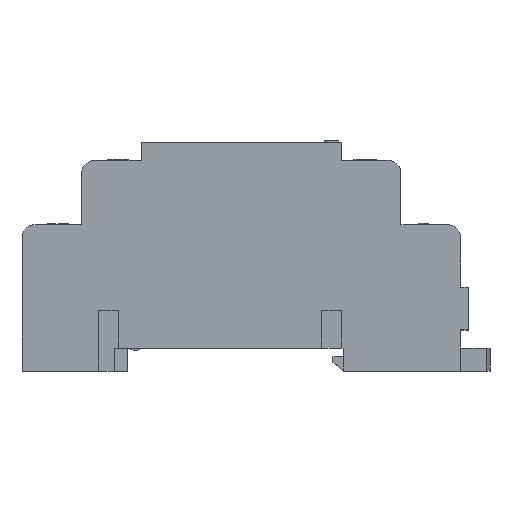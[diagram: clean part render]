
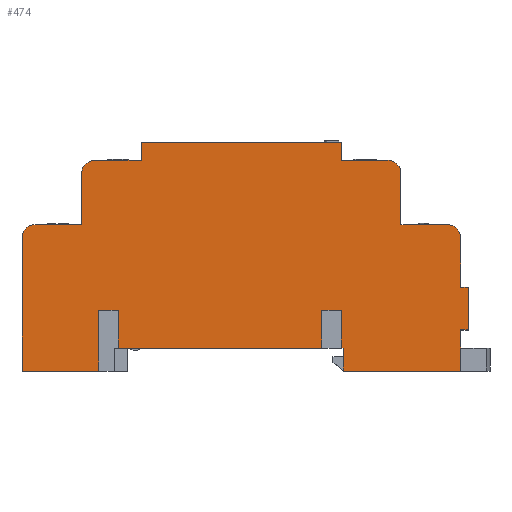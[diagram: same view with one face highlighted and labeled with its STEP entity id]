
A CAD part, top view. The second image highlights one B-rep face of the part: STEP entity #474.
In plain terms, the highlighted planar face has unit normal (0, 0, 1).
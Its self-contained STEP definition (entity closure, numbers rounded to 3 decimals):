
#436=CIRCLE('',#6788,2.);
#437=CIRCLE('',#6789,2.);
#438=CIRCLE('',#6790,2.);
#439=CIRCLE('',#6791,2.);
#474=ADVANCED_FACE('',(#1074),#826,.T.);
#826=PLANE('',#6792);
#1074=FACE_OUTER_BOUND('',#1403,.T.);
#1403=EDGE_LOOP('',(#1839,#1840,#1841,#1842,#1843,#1844,#1845,#1846,#1847,
#1848,#1849,#1850,#1851,#1852,#1853,#1854,#1855,#1856,#1857,#1858,#1859,
#1860,#1861,#1862,#1863,#1864,#1865,#1866,#1867,#1868,#1869));
#1839=ORIENTED_EDGE('',*,*,#4343,.F.);
#1840=ORIENTED_EDGE('',*,*,#4382,.T.);
#1841=ORIENTED_EDGE('',*,*,#4383,.T.);
#1842=ORIENTED_EDGE('',*,*,#4384,.T.);
#1843=ORIENTED_EDGE('',*,*,#4385,.F.);
#1844=ORIENTED_EDGE('',*,*,#4386,.T.);
#1845=ORIENTED_EDGE('',*,*,#4387,.T.);
#1846=ORIENTED_EDGE('',*,*,#4388,.F.);
#1847=ORIENTED_EDGE('',*,*,#4389,.T.);
#1848=ORIENTED_EDGE('',*,*,#4390,.F.);
#1849=ORIENTED_EDGE('',*,*,#4354,.F.);
#1850=ORIENTED_EDGE('',*,*,#4391,.F.);
#1851=ORIENTED_EDGE('',*,*,#4392,.F.);
#1852=ORIENTED_EDGE('',*,*,#4393,.F.);
#1853=ORIENTED_EDGE('',*,*,#4394,.F.);
#1854=ORIENTED_EDGE('',*,*,#4395,.F.);
#1855=ORIENTED_EDGE('',*,*,#4396,.F.);
#1856=ORIENTED_EDGE('',*,*,#4397,.F.);
#1857=ORIENTED_EDGE('',*,*,#4398,.F.);
#1858=ORIENTED_EDGE('',*,*,#4399,.F.);
#1859=ORIENTED_EDGE('',*,*,#4400,.F.);
#1860=ORIENTED_EDGE('',*,*,#4401,.F.);
#1861=ORIENTED_EDGE('',*,*,#4402,.F.);
#1862=ORIENTED_EDGE('',*,*,#4403,.F.);
#1863=ORIENTED_EDGE('',*,*,#4404,.F.);
#1864=ORIENTED_EDGE('',*,*,#4405,.F.);
#1865=ORIENTED_EDGE('',*,*,#4406,.T.);
#1866=ORIENTED_EDGE('',*,*,#4339,.F.);
#1867=ORIENTED_EDGE('',*,*,#4407,.T.);
#1868=ORIENTED_EDGE('',*,*,#4408,.T.);
#1869=ORIENTED_EDGE('',*,*,#4409,.T.);
#3701=VERTEX_POINT('',#8452);
#3702=VERTEX_POINT('',#8453);
#3705=VERTEX_POINT('',#8461);
#3706=VERTEX_POINT('',#8462);
#3710=VERTEX_POINT('',#8471);
#3716=VERTEX_POINT('',#8483);
#3741=VERTEX_POINT('',#8539);
#3742=VERTEX_POINT('',#8541);
#3743=VERTEX_POINT('',#8543);
#3744=VERTEX_POINT('',#8545);
#3745=VERTEX_POINT('',#8547);
#3746=VERTEX_POINT('',#8549);
#3747=VERTEX_POINT('',#8551);
#3748=VERTEX_POINT('',#8553);
#3749=VERTEX_POINT('',#8556);
#3750=VERTEX_POINT('',#8558);
#3751=VERTEX_POINT('',#8560);
#3752=VERTEX_POINT('',#8562);
#3753=VERTEX_POINT('',#8564);
#3754=VERTEX_POINT('',#8566);
#3755=VERTEX_POINT('',#8568);
#3756=VERTEX_POINT('',#8570);
#3757=VERTEX_POINT('',#8572);
#3758=VERTEX_POINT('',#8574);
#3759=VERTEX_POINT('',#8576);
#3760=VERTEX_POINT('',#8578);
#3761=VERTEX_POINT('',#8580);
#3762=VERTEX_POINT('',#8582);
#3763=VERTEX_POINT('',#8584);
#3764=VERTEX_POINT('',#8587);
#3765=VERTEX_POINT('',#8589);
#4339=EDGE_CURVE('',#3701,#3702,#5293,.T.);
#4343=EDGE_CURVE('',#3705,#3706,#5297,.T.);
#4354=EDGE_CURVE('',#3716,#3710,#5308,.T.);
#4382=EDGE_CURVE('',#3705,#3741,#5332,.T.);
#4383=EDGE_CURVE('',#3741,#3742,#5333,.T.);
#4384=EDGE_CURVE('',#3742,#3743,#5334,.T.);
#4385=EDGE_CURVE('',#3744,#3743,#5335,.T.);
#4386=EDGE_CURVE('',#3744,#3745,#5336,.T.);
#4387=EDGE_CURVE('',#3745,#3746,#5337,.T.);
#4388=EDGE_CURVE('',#3747,#3746,#5338,.T.);
#4389=EDGE_CURVE('',#3747,#3748,#5339,.T.);
#4390=EDGE_CURVE('',#3710,#3748,#5340,.T.);
#4391=EDGE_CURVE('',#3749,#3716,#436,.T.);
#4392=EDGE_CURVE('',#3750,#3749,#5341,.T.);
#4393=EDGE_CURVE('',#3751,#3750,#5342,.T.);
#4394=EDGE_CURVE('',#3752,#3751,#437,.T.);
#4395=EDGE_CURVE('',#3753,#3752,#5343,.T.);
#4396=EDGE_CURVE('',#3754,#3753,#5344,.T.);
#4397=EDGE_CURVE('',#3755,#3754,#5345,.T.);
#4398=EDGE_CURVE('',#3756,#3755,#5346,.T.);
#4399=EDGE_CURVE('',#3757,#3756,#5347,.T.);
#4400=EDGE_CURVE('',#3758,#3757,#438,.T.);
#4401=EDGE_CURVE('',#3759,#3758,#5348,.T.);
#4402=EDGE_CURVE('',#3760,#3759,#5349,.T.);
#4403=EDGE_CURVE('',#3761,#3760,#439,.T.);
#4404=EDGE_CURVE('',#3762,#3761,#5350,.T.);
#4405=EDGE_CURVE('',#3763,#3762,#5351,.T.);
#4406=EDGE_CURVE('',#3763,#3702,#5352,.T.);
#4407=EDGE_CURVE('',#3701,#3764,#5353,.T.);
#4408=EDGE_CURVE('',#3764,#3765,#5354,.T.);
#4409=EDGE_CURVE('',#3765,#3706,#5355,.T.);
#5293=LINE('',#8451,#6039);
#5297=LINE('',#8460,#6043);
#5308=LINE('',#8484,#6054);
#5332=LINE('',#8538,#6078);
#5333=LINE('',#8540,#6079);
#5334=LINE('',#8542,#6080);
#5335=LINE('',#8544,#6081);
#5336=LINE('',#8546,#6082);
#5337=LINE('',#8548,#6083);
#5338=LINE('',#8550,#6084);
#5339=LINE('',#8552,#6085);
#5340=LINE('',#8554,#6086);
#5341=LINE('',#8557,#6087);
#5342=LINE('',#8559,#6088);
#5343=LINE('',#8563,#6089);
#5344=LINE('',#8565,#6090);
#5345=LINE('',#8567,#6091);
#5346=LINE('',#8569,#6092);
#5347=LINE('',#8571,#6093);
#5348=LINE('',#8575,#6094);
#5349=LINE('',#8577,#6095);
#5350=LINE('',#8581,#6096);
#5351=LINE('',#8583,#6097);
#5352=LINE('',#8585,#6098);
#5353=LINE('',#8586,#6099);
#5354=LINE('',#8588,#6100);
#5355=LINE('',#8590,#6101);
#6039=VECTOR('',#7094,1.);
#6043=VECTOR('',#7100,1.);
#6054=VECTOR('',#7113,1.);
#6078=VECTOR('',#7149,1.);
#6079=VECTOR('',#7150,1.);
#6080=VECTOR('',#7151,1.);
#6081=VECTOR('',#7152,1.);
#6082=VECTOR('',#7153,1.);
#6083=VECTOR('',#7154,1.);
#6084=VECTOR('',#7155,1.);
#6085=VECTOR('',#7156,1.);
#6086=VECTOR('',#7157,1.);
#6087=VECTOR('',#7160,1.);
#6088=VECTOR('',#7161,1.);
#6089=VECTOR('',#7164,1.);
#6090=VECTOR('',#7165,1.);
#6091=VECTOR('',#7166,1.);
#6092=VECTOR('',#7167,1.);
#6093=VECTOR('',#7168,1.);
#6094=VECTOR('',#7171,1.);
#6095=VECTOR('',#7172,1.);
#6096=VECTOR('',#7175,1.);
#6097=VECTOR('',#7176,1.);
#6098=VECTOR('',#7177,1.);
#6099=VECTOR('',#7178,1.);
#6100=VECTOR('',#7179,1.);
#6101=VECTOR('',#7180,1.);
#6788=AXIS2_PLACEMENT_3D('',#8555,#7158,#7159);
#6789=AXIS2_PLACEMENT_3D('',#8561,#7162,#7163);
#6790=AXIS2_PLACEMENT_3D('',#8573,#7169,#7170);
#6791=AXIS2_PLACEMENT_3D('',#8579,#7173,#7174);
#6792=AXIS2_PLACEMENT_3D('',#8591,#7181,#7182);
#7094=DIRECTION('',(-1.,0.,0.));
#7100=DIRECTION('',(-1.,0.,0.));
#7113=DIRECTION('',(0.,-1.,0.));
#7149=DIRECTION('',(0.,-1.,0.));
#7150=DIRECTION('',(1.,0.,0.));
#7151=DIRECTION('',(0.,-1.,0.));
#7152=DIRECTION('',(-1.,0.,0.));
#7153=DIRECTION('',(0.,1.,0.));
#7154=DIRECTION('',(1.,0.,0.));
#7155=DIRECTION('',(-1.,0.,0.));
#7156=DIRECTION('',(0.,1.,0.));
#7157=DIRECTION('',(1.,0.,0.));
#7158=DIRECTION('',(0.,0.,-1.));
#7159=DIRECTION('',(0.707,0.707,0.));
#7160=DIRECTION('',(1.,0.,0.));
#7161=DIRECTION('',(0.,-1.,0.));
#7162=DIRECTION('',(0.,0.,-1.));
#7163=DIRECTION('',(0.707,0.707,0.));
#7164=DIRECTION('',(1.,0.,0.));
#7165=DIRECTION('',(0.,-1.,0.));
#7166=DIRECTION('',(1.,0.,0.));
#7167=DIRECTION('',(0.,1.,0.));
#7168=DIRECTION('',(1.,0.,0.));
#7169=DIRECTION('',(0.,0.,-1.));
#7170=DIRECTION('',(-0.707,0.707,0.));
#7171=DIRECTION('',(0.,1.,0.));
#7172=DIRECTION('',(1.,0.,0.));
#7173=DIRECTION('',(0.,0.,-1.));
#7174=DIRECTION('',(-0.707,0.707,0.));
#7175=DIRECTION('',(0.,1.,0.));
#7176=DIRECTION('',(-1.,0.,0.));
#7177=DIRECTION('',(0.,1.,0.));
#7178=DIRECTION('',(0.,-1.,0.));
#7179=DIRECTION('',(1.,0.,0.));
#7180=DIRECTION('',(0.,1.,0.));
#7181=DIRECTION('',(0.,0.,1.));
#7182=DIRECTION('',(-1.,0.,0.));
#8451=CARTESIAN_POINT('',(33.5,-8.2,10.));
#8452=CARTESIAN_POINT('',(-18.8,-8.2,10.));
#8453=CARTESIAN_POINT('',(-21.8,-8.2,10.));
#8460=CARTESIAN_POINT('',(33.5,-8.2,10.));
#8461=CARTESIAN_POINT('',(15.3,-8.2,10.));
#8462=CARTESIAN_POINT('',(12.3,-8.2,10.));
#8471=CARTESIAN_POINT('',(33.5,-4.7,10.));
#8483=CARTESIAN_POINT('',(33.5,2.9,10.));
#8484=CARTESIAN_POINT('',(33.5,2.9,10.));
#8538=CARTESIAN_POINT('',(15.3,-8.2,10.));
#8539=CARTESIAN_POINT('',(15.3,-14.,10.));
#8540=CARTESIAN_POINT('',(15.3,-14.,10.));
#8541=CARTESIAN_POINT('',(15.6,-14.,10.));
#8542=CARTESIAN_POINT('',(15.6,-14.,10.));
#8543=CARTESIAN_POINT('',(15.6,-17.5,10.));
#8544=CARTESIAN_POINT('',(33.5,-17.5,10.));
#8545=CARTESIAN_POINT('',(33.5,-17.5,10.));
#8546=CARTESIAN_POINT('',(33.5,-17.5,10.));
#8547=CARTESIAN_POINT('',(33.5,-11.2,10.));
#8548=CARTESIAN_POINT('',(37.2,-11.2,10.));
#8549=CARTESIAN_POINT('',(34.,-11.2,10.));
#8550=CARTESIAN_POINT('',(33.5,-11.2,10.));
#8551=CARTESIAN_POINT('',(34.7,-11.2,10.));
#8552=CARTESIAN_POINT('',(34.7,-17.8,10.));
#8553=CARTESIAN_POINT('',(34.7,-4.7,10.));
#8554=CARTESIAN_POINT('',(33.5,-4.7,10.));
#8555=CARTESIAN_POINT('',(31.5,2.9,10.));
#8556=CARTESIAN_POINT('',(31.5,4.9,10.));
#8557=CARTESIAN_POINT('',(24.4,4.9,10.));
#8558=CARTESIAN_POINT('',(24.4,4.9,10.));
#8559=CARTESIAN_POINT('',(24.4,12.7,10.));
#8560=CARTESIAN_POINT('',(24.4,12.7,10.));
#8561=CARTESIAN_POINT('',(22.4,12.7,10.));
#8562=CARTESIAN_POINT('',(22.4,14.7,10.));
#8563=CARTESIAN_POINT('',(15.3,14.7,10.));
#8564=CARTESIAN_POINT('',(15.3,14.7,10.));
#8565=CARTESIAN_POINT('',(15.3,17.5,10.));
#8566=CARTESIAN_POINT('',(15.3,17.5,10.));
#8567=CARTESIAN_POINT('',(-15.3,17.5,10.));
#8568=CARTESIAN_POINT('',(-15.3,17.5,10.));
#8569=CARTESIAN_POINT('',(-15.3,14.7,10.));
#8570=CARTESIAN_POINT('',(-15.3,14.7,10.));
#8571=CARTESIAN_POINT('',(-22.4,14.7,10.));
#8572=CARTESIAN_POINT('',(-22.4,14.7,10.));
#8573=CARTESIAN_POINT('',(-22.4,12.7,10.));
#8574=CARTESIAN_POINT('',(-24.4,12.7,10.));
#8575=CARTESIAN_POINT('',(-24.4,4.9,10.));
#8576=CARTESIAN_POINT('',(-24.4,4.9,10.));
#8577=CARTESIAN_POINT('',(-31.5,4.9,10.));
#8578=CARTESIAN_POINT('',(-31.5,4.9,10.));
#8579=CARTESIAN_POINT('',(-31.5,2.9,10.));
#8580=CARTESIAN_POINT('',(-33.5,2.9,10.));
#8581=CARTESIAN_POINT('',(-33.5,-8.2,10.));
#8582=CARTESIAN_POINT('',(-33.5,-17.5,10.));
#8583=CARTESIAN_POINT('',(-21.8,-17.5,10.));
#8584=CARTESIAN_POINT('',(-21.8,-17.5,10.));
#8585=CARTESIAN_POINT('',(-21.8,-17.5,10.));
#8586=CARTESIAN_POINT('',(-18.8,-8.2,10.));
#8587=CARTESIAN_POINT('',(-18.8,-14.,10.));
#8588=CARTESIAN_POINT('',(-18.8,-14.,10.));
#8589=CARTESIAN_POINT('',(12.3,-14.,10.));
#8590=CARTESIAN_POINT('',(12.3,-14.,10.));
#8591=CARTESIAN_POINT('',(0.,11.2,10.));
